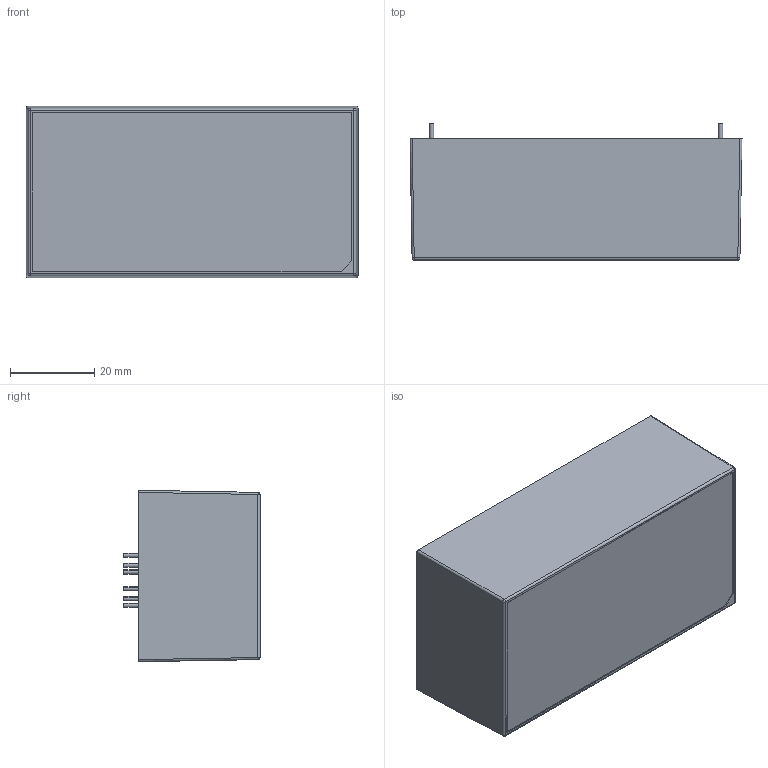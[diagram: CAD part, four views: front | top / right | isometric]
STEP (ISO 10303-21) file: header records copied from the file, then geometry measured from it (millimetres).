
FILE_DESCRIPTION (( 'STEP AP203' ), '1' );
FILE_NAME ('CFM36SBXXX-E ¦¨«~¹Ï (M-B119-F)(V1.0)-1130715.STEP', '2024-08-20T00:38:30', ( 'cincon' ), ( '' ), 'SwSTEP 2.0', 'SolidWorks 2020', '' );
FILE_SCHEMA (( 'CONFIG_CONTROL_DESIGN' ));
Length unit declared in the file: millimetre
Products named in the file (23): VCE20灌膠口; ｶ鷄IN G7200030020-1070503; CFM04 CY1示意圖; Electrolitic Capacitor Radial (5X11.8); CFM36S-P 成品圖(V1.4)-1100922_-P; CFM36SBXXX-P(E) PCB-1100922; 電晶體FCH10A20 TO-220F示意圖; VCE20H L1變壓器示意圖-1090604; CFM36S BASE G5689129106(M-B487-M)(V1.0)-1110128; CFM36 BR1-1090826; 8x12.6mm電容; CFM36SBXXX-E 成品圖 (M-B119-F)(V1.0)-1130715; 8.2x17mm電容; CFM40M UZ2 990210; CFM36S CASE G5689128106(M-B486-M)(V1.0)-1110128; 12.7x30.7mm電容; D4
Assembly tree (25 placements, depth 3):
  CFM36SBXXX-E 成品圖 (M-B119-F)(V1.0)-1130715
    CFM36S CASE G5689128106(M-B486-M)(V1.0)-1110128
    CFM36S BASE G5689129106(M-B487-M)(V1.0)-1110128
      CFM36S BASE G5689129106(M-B487-M)(V1.0)-1110128
    CFM36S-P 成品圖(V1.4)-1100922_-P
      CFM36SBXXX-P(E) PCB-1100922
      D4
      Electrolitic Capacitor Radial (5X11.8)
      CFM40M UZ2 990210
      8.2x17mm電容
      8x12.6mm電容
      CFM04 CY1示意圖  x4
      電晶體FCH10A20 TO-220F示意圖
      VCE20H L1變壓器示意圖-1090604
      12.7x30.7mm電容
      CFM36 BR1-1090826
    ｶ鷄IN G7200030020-1070503
    ｶ鷄IN G7200030020-1070503
    ｶ鷄IN G7200030020-1070503
    ｶ鷄IN G7200030020-1070503
    ｶ鷄IN G7200030020-1070503
    ｶ鷄IN G7200030020-1070503
    VCE20灌膠口
Bounding box: 78.78 x 32.3 x 40.68 mm (x, y, z)
Volume: 38069.9 mm3; surface area: 40998 mm2
Topology: 23 solids, 23 shells, 851 faces, 2118 edges, 1352 vertices
Faces by surface type: plane 442, cylinder 205, torus 100, bspline 84, cone 16, sphere 4
Entity records: 29338 total; most frequent: CARTESIAN_POINT 8375, ORIENTED_EDGE 3824, DIRECTION 3808, EDGE_CURVE 1912, AXIS2_PLACEMENT_3D 1294, VERTEX_POINT 1232, LINE 1220, VECTOR 1220
